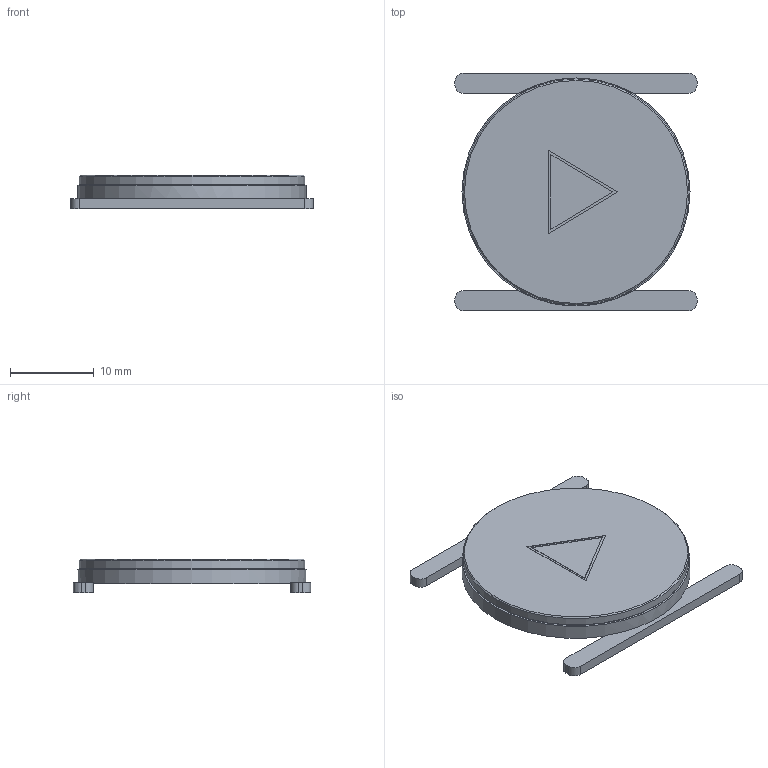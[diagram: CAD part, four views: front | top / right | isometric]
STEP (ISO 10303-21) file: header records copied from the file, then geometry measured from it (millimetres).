
FILE_DESCRIPTION(/* description */ (''),/* implementation_level */ '2;1');
FILE_NAME(/* name */ 'P03.step',/* time_stamp */ '2026-09-14T14:30:29-07:00',/* author */ (''),/* organization */ (''),/* preprocessor_version */ 'ST-DEVELOPER v20.1',/* originating_system */ 'Autodesk Translation Framework v15.8.0.0',/* authorisation */ '');
FILE_SCHEMA (('AUTOMOTIVE_DESIGN { 1 0 10303 214 3 1 1 }'));
Length unit declared in the file: millimetre
Products named in the file (1): 2026-09-14-14-30-29-382
Bounding box: 29 x 28.4 x 4.05 mm (x, y, z)
Volume: 1870.8 mm3; surface area: 1781.4 mm2
Topology: 1 solids, 1 shells, 36 faces, 89 edges, 59 vertices
Faces by surface type: plane 24, cylinder 11, cone 1
Full cylindrical faces by diameter (mm): 26.8 x1, 27 x1, 27.3 x1
Entity records: 1105 total; most frequent: DIRECTION 190, CARTESIAN_POINT 185, ORIENTED_EDGE 178, EDGE_CURVE 89, AXIS2_PLACEMENT_3D 64, LINE 62, VECTOR 62, VERTEX_POINT 59
